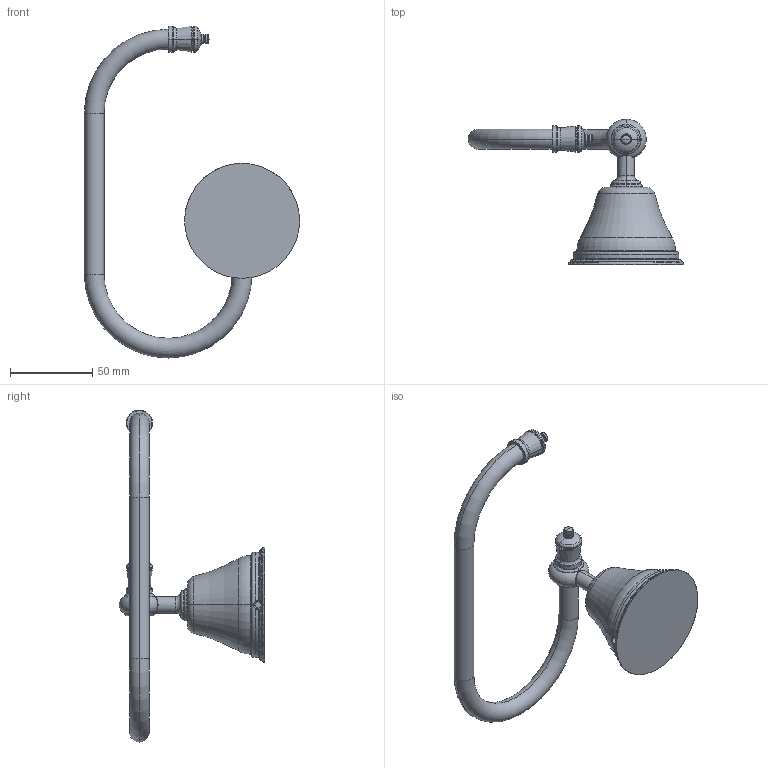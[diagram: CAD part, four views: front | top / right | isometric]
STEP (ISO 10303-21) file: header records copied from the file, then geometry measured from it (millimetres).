
FILE_DESCRIPTION((''),'2;1');
FILE_NAME('37307--00','2026-09-10T13:42:11',('clra1'),(''),'CREO PARAMETRIC BY PTC INC, 2022244','CREO PARAMETRIC BY PTC INC, 2022244','');
FILE_SCHEMA(('CONFIG_CONTROL_DESIGN'));
Length unit declared in the file: millimetre
Products named in the file (1): 37307--00
Bounding box: 131 x 88.48 x 202 mm (x, y, z)
Surface area: 34239.6 mm2 (no closed solid volume)
Topology: 0 solids, 15 shells, 167 faces, 352 edges, 195 vertices
Faces by surface type: torus 91, cylinder 43, plane 15, sphere 8, cone 6, bspline 4
Entity records: 5512 total; most frequent: CARTESIAN_POINT 1838, DIRECTION 921, ORIENTED_EDGE 661, AXIS2_PLACEMENT_3D 434, EDGE_CURVE 348, CIRCLE 271, VERTEX_POINT 195, EDGE_LOOP 167
